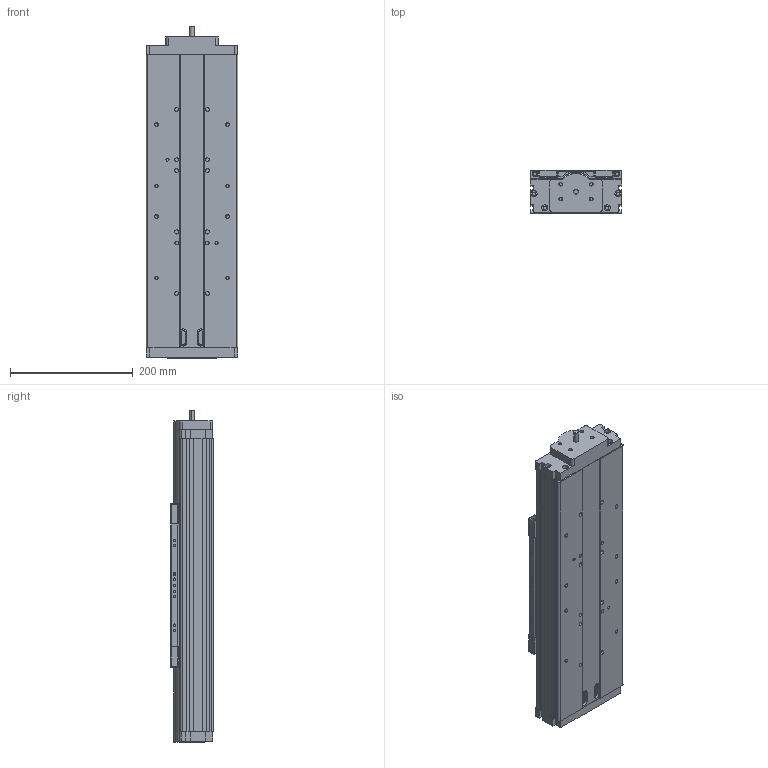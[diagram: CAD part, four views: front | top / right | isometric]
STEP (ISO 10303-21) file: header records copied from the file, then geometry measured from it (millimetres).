
FILE_DESCRIPTION((''),'2;1');
FILE_NAME('406XR-02_ASM','2002-07-12T',('FKrakosh'),(''),'PRO/ENGINEER BY PARAMETRIC TECHNOLOGY CORPORATION, 2000420','PRO/ENGINEER BY PARAMETRIC TECHNOLOGY CORPORATION, 2000420','');
FILE_SCHEMA(('CONFIG_CONTROL_DESIGN'));
Length unit declared in the file: millimetre
Products named in the file (8): 406XR-BASE-02; 406XR-REAR-END-BLK; 406XR-CARRIAGE; 10853610-01; 406XR-FEB-8MM; 10426110; 30321911; 406XR-02_ASM
Assembly tree (8 placements, depth 2):
  406XR-02_ASM
    406XR-BASE-02
    406XR-REAR-END-BLK
    406XR-CARRIAGE
    10853610-01  x2
    406XR-FEB-8MM
    10426110
    30321911
Bounding box: 150 x 69.9 x 541.4 mm (x, y, z)
Volume: 4657289 mm3; surface area: 436007.5 mm2
Topology: 8 solids, 54 shells, 840 faces, 2108 edges, 1404 vertices
Faces by surface type: cylinder 422, plane 388, bspline 16, sphere 12, cone 2
Entity records: 23848 total; most frequent: CARTESIAN_POINT 5248, DIRECTION 4054, ORIENTED_EDGE 3526, EDGE_CURVE 1851, AXIS2_PLACEMENT_3D 1537, VERTEX_POINT 1247, VECTOR 980, LINE 980
